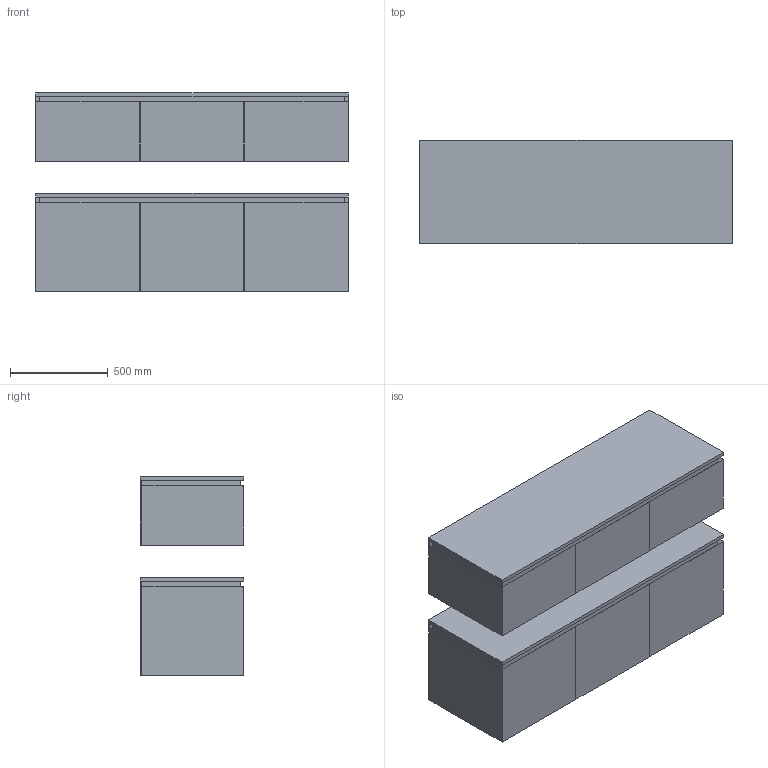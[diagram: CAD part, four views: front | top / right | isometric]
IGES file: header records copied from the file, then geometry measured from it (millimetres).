
Global section: file name: \\Archi-NAS\Comune\X GIOVANNI\MOBILI\ELEGNACE\ELEGANCE_03.igs; native system: Rhinoceros ( Feb 23 2021 ); preprocessor: Trout Lake IGES 012 Feb 23 2021; date: 230607.141924; units: millimetre
Bounding box: 1600 x 530 x 1014.5 mm (x, y, z)
Surface area: 22806442.6 mm2 (no closed solid volume)
Topology: 0 solids, 0 shells, 228 faces, 976 edges, 976 vertices
Faces by surface type: bspline 228
